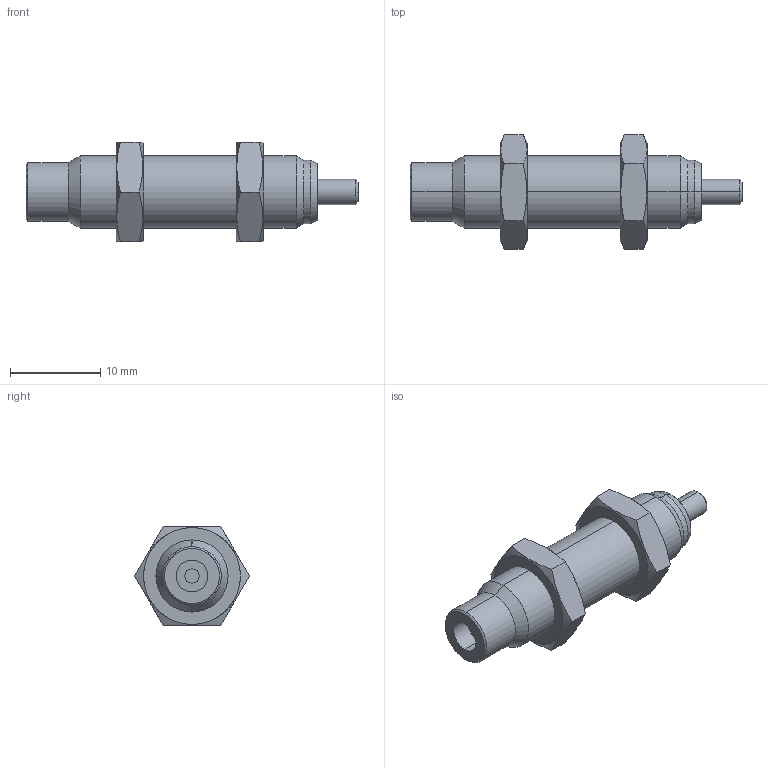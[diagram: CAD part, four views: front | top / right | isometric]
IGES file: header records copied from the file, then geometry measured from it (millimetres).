
Start section: SolidWorks IGES file using analytic representation for surfaces
Global section: file name: D:\IGS跡宒\AC0805-N.IGS,1; native system: 5HSolidWorks 2013; preprocessor: SolidWorks 2013; author: Administrator; date: 160406.151420; units: inch
Bounding box: 36.8 x 12.7 x 11 mm (x, y, z)
Surface area: 1527.3 mm2 (no closed solid volume)
Topology: 0 solids, 0 shells, 55 faces, 920 edges, 920 vertices
Faces by surface type: revolution 34, bspline 21
